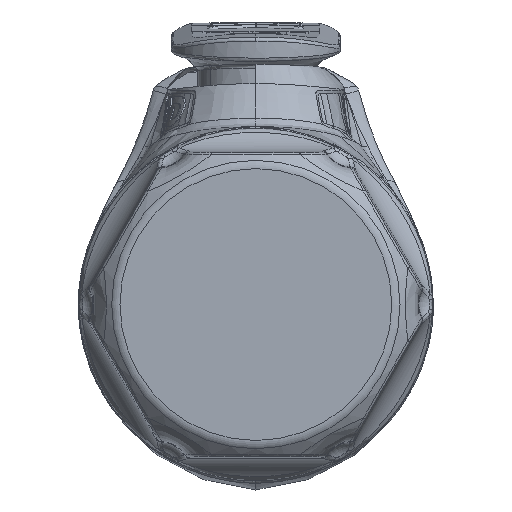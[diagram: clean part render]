
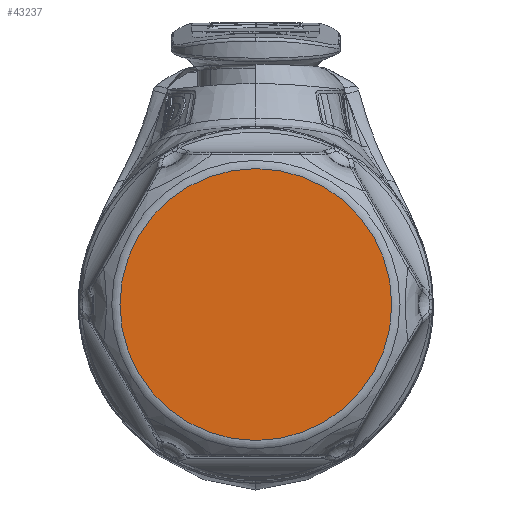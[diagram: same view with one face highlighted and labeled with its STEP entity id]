
A CAD part, front view. The second image highlights one B-rep face of the part: STEP entity #43237.
In plain terms, the highlighted planar face has unit normal (0, -1, 0).
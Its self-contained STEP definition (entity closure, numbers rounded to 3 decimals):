
#1339 = DIRECTION ( 'NONE',  ( 0., -1., 0. ) ) ;
#2953 = AXIS2_PLACEMENT_3D ( 'NONE', #5158, #87514, #19175 ) ;
#5158 = CARTESIAN_POINT ( 'NONE',  ( 0., -58.7, 0. ) ) ;
#8103 = CARTESIAN_POINT ( 'NONE',  ( 0., -58.7, 0. ) ) ;
#19175 = DIRECTION ( 'NONE',  ( 0., 0., -1. ) ) ;
#20792 = DIRECTION ( 'NONE',  ( 1., 0., 0. ) ) ;
#33257 = CIRCLE ( 'NONE', #62195, 11.016 ) ;
#40369 = EDGE_CURVE ( 'NONE', #62546, #62546, #33257, .T. ) ;
#43237 = ADVANCED_FACE ( 'NONE', ( #50026 ), #65362, .T. ) ;
#50026 = FACE_OUTER_BOUND ( 'NONE', #61467, .T. ) ;
#55639 = ORIENTED_EDGE ( 'NONE', *, *, #40369, .T. ) ;
#61467 = EDGE_LOOP ( 'NONE', ( #55639 ) ) ;
#62195 = AXIS2_PLACEMENT_3D ( 'NONE', #8103, #1339, #20792 ) ;
#62546 = VERTEX_POINT ( 'NONE', #77009 ) ;
#65362 = PLANE ( 'NONE',  #2953 ) ;
#77009 = CARTESIAN_POINT ( 'NONE',  ( 11.016, -58.7, 0. ) ) ;
#87514 = DIRECTION ( 'NONE',  ( 0., -1., 0. ) ) ;
